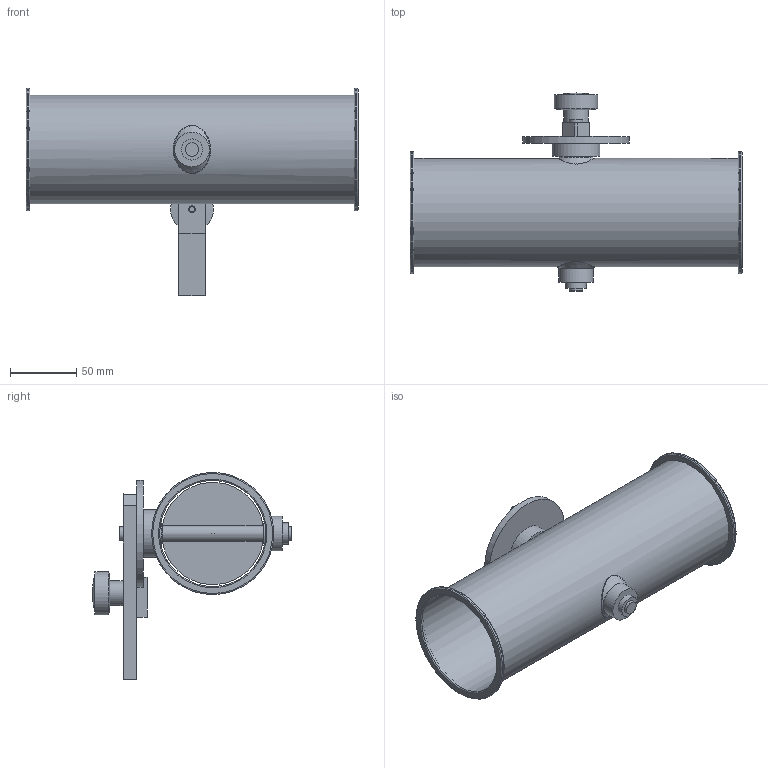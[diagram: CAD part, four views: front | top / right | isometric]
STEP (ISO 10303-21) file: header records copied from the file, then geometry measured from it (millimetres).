
FILE_DESCRIPTION(/* description */ (''),/* implementation_level */ '2;1');
FILE_NAME(/* name */ '',/* time_stamp */ '2023-03-10T15:02:14+01:00',/* author */ (''),/* organization */ (''),/* preprocessor_version */ 'ST-DEVELOPER v11',/* originating_system */ 'SIEMENS UGS NX 6.0',/* authorisation */ '');
FILE_SCHEMA (('CONFIG_CONTROL_DESIGN'));
Length unit declared in the file: millimetre
Products named in the file (1): d.ga8B38arpi
Bounding box: 250 x 149.17 x 156 mm (x, y, z)
Volume: 158651.3 mm3; surface area: 182411.4 mm2
Topology: 12 solids, 12 shells, 102 faces, 209 edges, 142 vertices
Faces by surface type: plane 48, cylinder 34, torus 10, cone 4, bspline 4, sphere 2
Full cylindrical faces by diameter (mm): 4.2 x1, 5 x1, 6 x1, 10 x5, 15 x3, 15.85 x2, 16.2 x2, 18.5 x1, 24 x2, 25 x1, 26 x1, 32.5 x1, 36 x1, 80 x2, 81.6 x1, 92 x2
Entity records: 3104 total; most frequent: CARTESIAN_POINT 1097, DIRECTION 414, ORIENTED_EDGE 284, AXIS2_PLACEMENT_3D 181, EDGE_LOOP 180, FACE_BOUND 150, EDGE_CURVE 142, VERTEX_POINT 120
